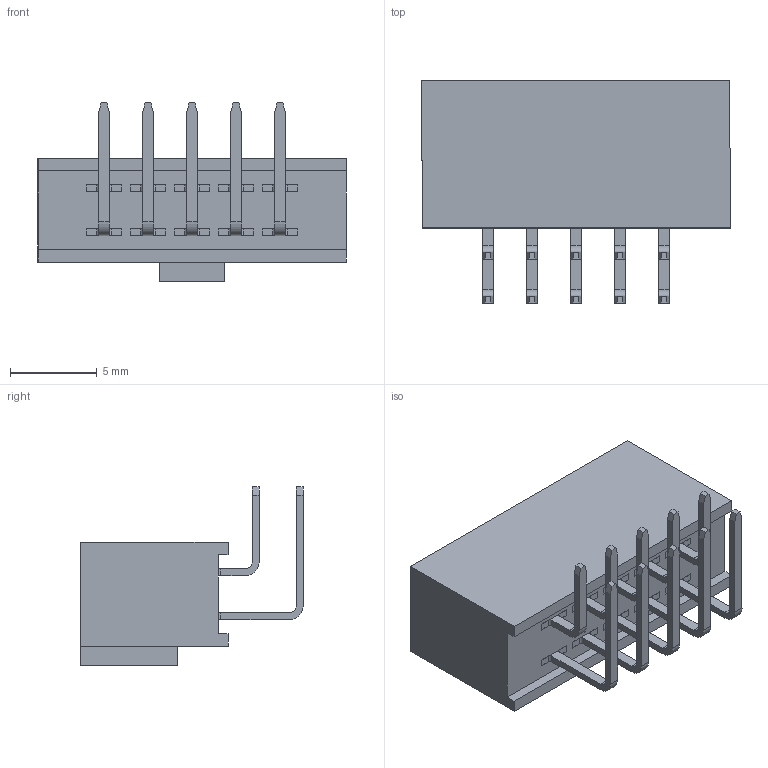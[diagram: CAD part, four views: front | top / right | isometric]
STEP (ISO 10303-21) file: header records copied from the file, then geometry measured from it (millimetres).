
FILE_DESCRIPTION (( 'STEP AP214' ), '1' );
FILE_NAME ('2046-10G00RB.STEP', '2016-09-01T09:44:32', ( 'admin' ), ( '' ), 'SwSTEP 2.0', 'SolidWorks 2011', '' );
FILE_SCHEMA (( 'AUTOMOTIVE_DESIGN' ));
Length unit declared in the file: millimetre
Products named in the file (4): 2044-PIN-S_Default; 2044-PIN-S_2044-R2_Default; 2046-2X20B_Default; 2046-10G00RB
Assembly tree (11 placements, depth 2):
  2046-10G00RB
    2044-PIN-S_Default  x5
    2046-2X20B_Default
    2044-PIN-S_2044-R2_Default  x5
Bounding box: 17.78 x 12.84 x 10.3 mm (x, y, z)
Volume: 856.1 mm3; surface area: 1187.7 mm2
Topology: 31 solids, 31 shells, 624 faces, 1586 edges, 1044 vertices
Faces by surface type: plane 494, cylinder 130
Entity records: 9464 total; most frequent: CARTESIAN_POINT 1636, ORIENTED_EDGE 1588, DIRECTION 1498, EDGE_CURVE 794, VECTOR 742, LINE 742, VERTEX_POINT 516, AXIS2_PLACEMENT_3D 378
